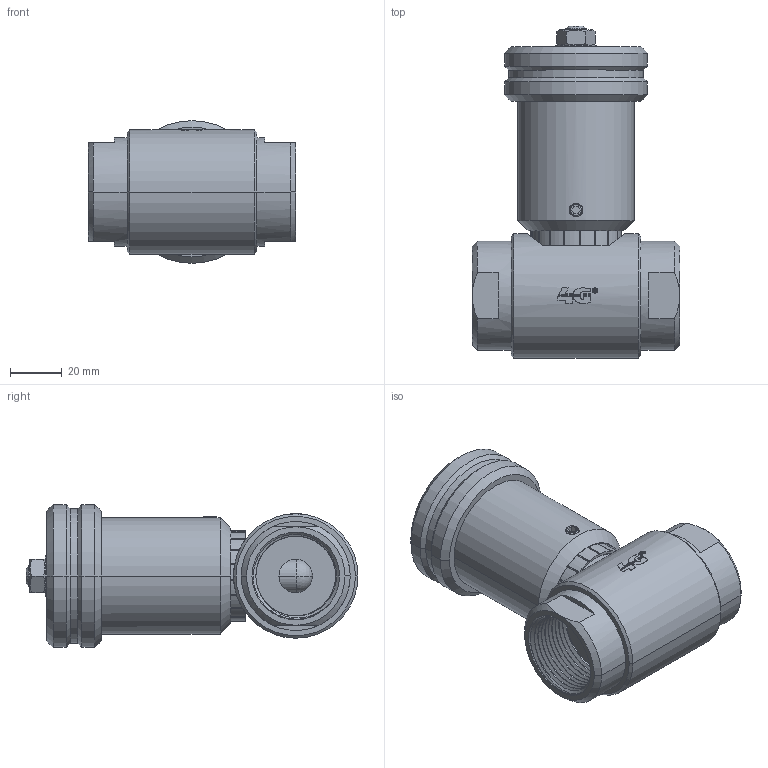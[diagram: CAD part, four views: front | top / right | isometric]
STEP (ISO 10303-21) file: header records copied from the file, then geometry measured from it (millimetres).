
FILE_DESCRIPTION((''),'2;1');
FILE_NAME('PARTE_VUOTA','2022-05-18T11:21:27',('alfio.taboni'),('CDM Tecnoconsulting'),'CREO PARAMETRIC BY PTC INC, 2020053','CREO PARAMETRIC BY PTC INC, 2020053','');
FILE_SCHEMA(('CONFIG_CONTROL_DESIGN','SHAPE_APPEARANCE_LAYERS_GROUPS'));
Length unit declared in the file: millimetre
Products named in the file (1): PARTE_VUOTA
Bounding box: 80 x 128 x 55 mm (x, y, z)
Volume: 190603.5 mm3; surface area: 65399.4 mm2
Topology: 1 solids, 4 shells, 691 faces, 1822 edges, 1162 vertices
Faces by surface type: plane 275, cylinder 193, cone 77, bspline 72, extrusion 56, torus 16, sphere 2
Entity records: 56479 total; most frequent: CARTESIAN_POINT 34886, ORIENTED_EDGE 3632, DIRECTION 2752, PRESENTATION_STYLE_ASSIGNMENT 1829, STYLED_ITEM 1817, CURVE_STYLE 1816, EDGE_CURVE 1816, VERTEX_POINT 1162
